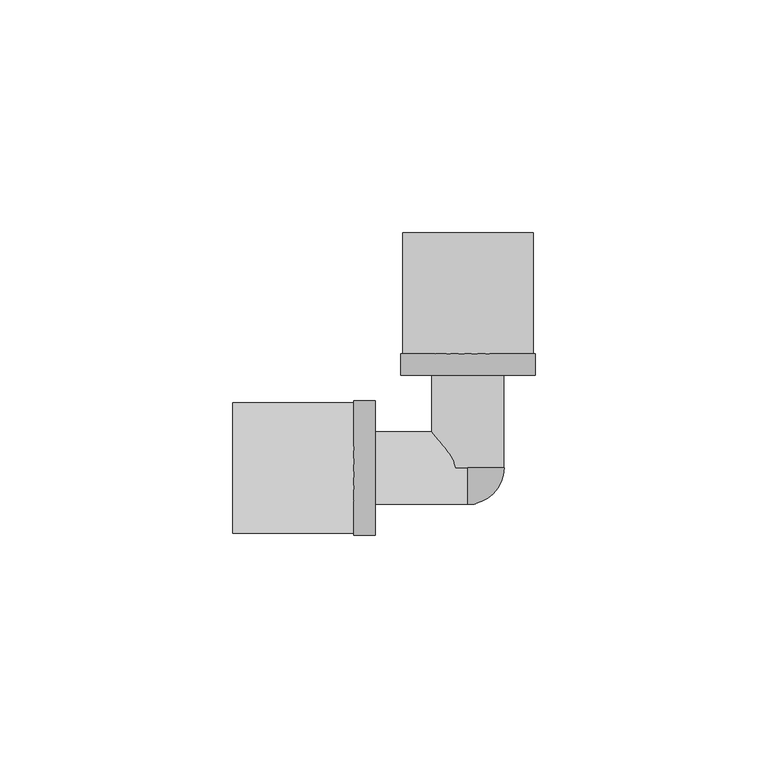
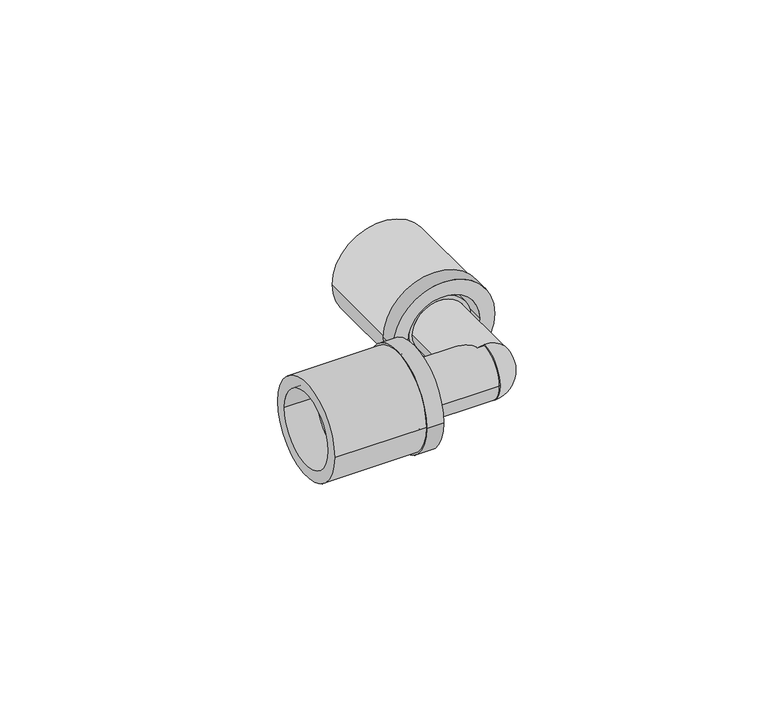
"""IFC4 building model written with IfcOpenShell, lengths in millimetres: pipe fitting geometry, FASTLOC_Corner EX+ : FSL C EX+ AT."""

from ifc_helpers import new_model, si_unit, point, frame, origin, origin_2d, place, context, project, spatial, polyline, circle_curve, ellipse_curve, trimmed, segment, composite_curve, outline, extrude, source, transform, mapped, element, save
from ifc_brep_helpers import plane_surface, cylinder_surface, revolved_surface, advanced_brep


def pipe_fitting_792dd94b(model_context):
    return source(origin(), model_context, "Body", "SolidModel", [
        extrude(outline(composite_curve([segment(trimmed(circle_curve(origin_2d(), 14.0), [point((0.0, 14.0))], [point((0.0, -14.0))], False, "CARTESIAN"), True, "CONTINUOUS"), segment(trimmed(circle_curve(origin_2d(), 14.0), [point((0.0, -14.0))], [point((0.0, 14.0))], False, "CARTESIAN"), True, "CONTINUOUS")], self_intersect=False), holes=[composite_curve([segment(trimmed(circle_curve(origin_2d(), 10.7), [point((0.0, 10.7))], [point((0.0, -10.7))], True, "CARTESIAN"), True, "CONTINUOUS"), segment(trimmed(circle_curve(origin_2d(), 10.7), [point((0.0, -10.7))], [point((0.0, 10.7))], True, "CARTESIAN"), True, "CONTINUOUS")], self_intersect=False)]), frame((0.0, 24.6, 0.0), z_axis=(0.0, 1.0, 0.0), x_axis=(0.0, 0.0, 1.0)), (0.0, 0.0, 1.0), 26.0),
        advanced_brep(
        [(-14.5, 24.6, 0.0), (14.5, 24.6, 0.0), (14.5, 19.9, 0.0), (-14.5, 19.9, 0.0), (-11.85, 41.6, 0.0), (11.85, 41.6, 0.0), (11.85, 24.6, 0.0), (-11.85, 24.6, 0.0), (-10.15, 19.9, 0.0), (10.15, 19.9, 0.0), (10.15, 41.6, 0.0), (-10.15, 41.6, 0.0)],
        [
            (0, 1, circle_curve(frame((0.0, 24.6, 0.0), z_axis=(0.0, -1.0, 0.0), x_axis=(1.0, 0.0, 0.0)), 14.5)),
            (1, 2),
            (2, 3, circle_curve(frame((0.0, 19.9, 0.0), z_axis=(0.0, 1.0, 0.0), x_axis=(1.0, 0.0, 0.0)), 14.5)),
            (3, 0),
            (4, 5, circle_curve(frame((0.0, 41.6, 0.0), z_axis=(0.0, -1.0, 0.0), x_axis=(1.0, 0.0, 0.0)), 11.85)),
            (5, 6),
            (6, 7, circle_curve(frame((0.0, 24.6, 0.0), z_axis=(0.0, 1.0, 0.0), x_axis=(1.0, 0.0, 0.0)), 11.85)),
            (7, 4),
            (8, 9, circle_curve(frame((0.0, 19.9, 0.0), z_axis=(0.0, -1.0, 0.0), x_axis=(1.0, 0.0, 0.0)), 10.15)),
            (9, 10),
            (10, 11, circle_curve(frame((0.0, 41.6, 0.0), z_axis=(0.0, 1.0, 0.0), x_axis=(1.0, 0.0, 0.0)), 10.15)),
            (11, 8),
            (1, 0, circle_curve(frame((0.0, 24.6, 0.0), z_axis=(0.0, -1.0, 0.0), x_axis=(-1.0, 0.0, 0.0)), 14.5)),
            (3, 2, circle_curve(frame((0.0, 19.9, 0.0), z_axis=(0.0, 1.0, 0.0), x_axis=(-1.0, 0.0, 0.0)), 14.5)),
            (6, 7, circle_curve(frame((0.0, 24.6, 0.0), z_axis=(0.0, -1.0, 0.0), x_axis=(-1.0, 0.0, 0.0)), 11.85)),
            (5, 4, circle_curve(frame((0.0, 41.6, 0.0), z_axis=(0.0, -1.0, 0.0), x_axis=(-1.0, 0.0, 0.0)), 11.85)),
            (10, 11, circle_curve(frame((0.0, 41.6, 0.0), z_axis=(0.0, -1.0, 0.0), x_axis=(-1.0, 0.0, 0.0)), 10.15)),
            (9, 8, circle_curve(frame((0.0, 19.9, 0.0), z_axis=(0.0, -1.0, 0.0), x_axis=(-1.0, 0.0, 0.0)), 10.15)),
        ],
        [
            cylinder_surface(frame((0.0, 19.9, 0.0), z_axis=(0.0, 1.0, 0.0), x_axis=(1.0, 0.0, 0.0)), 14.5),
            cylinder_surface(frame((0.0, 19.9, 0.0), z_axis=(0.0, 1.0, 0.0), x_axis=(1.0, 0.0, 0.0)), 11.85),
            revolved_surface(polyline([(10.15, 41.6, 0.0), (10.15, 19.9, 0.0)]), (0.0, 19.9, 0.0), (0.0, 1.0, 0.0)),
            cylinder_surface(frame((0.0, 19.9, 0.0), z_axis=(0.0, 1.0, 0.0), x_axis=(-1.0, 0.0, 0.0)), 14.5),
            plane_surface(frame((0.0, 24.6, 0.0), z_axis=(0.0, 1.0, 0.0), x_axis=(-1.0, 0.0, 0.0))),
            cylinder_surface(frame((0.0, 19.9, 0.0), z_axis=(0.0, 1.0, 0.0), x_axis=(-1.0, 0.0, 0.0)), 11.85),
            plane_surface(frame((0.0, 41.6, 0.0), z_axis=(0.0, 1.0, 0.0), x_axis=(-1.0, 0.0, 0.0))),
            revolved_surface(polyline([(-10.15, 41.6, 0.0), (-10.15, 19.9, 0.0)]), (0.0, 19.9, 0.0), (0.0, 1.0, 0.0)),
            plane_surface(frame((0.0, 19.9, 0.0), z_axis=(0.0, -1.0, 0.0), x_axis=(-1.0, 0.0, 0.0))),
        ],
        [
            (0, [[1, 2, 3, 4]]),
            (1, [[5, 6, 7, 8]]),
            (2, [[9, 10, 11, 12]]),
            (3, [[13, -4, 14, -2]]),
            (4, [[-13, -1], [15, -7]]),
            (5, [[16, -8, -15, -6]]),
            (6, [[-16, -5], [17, -11]]),
            (7, [[18, -12, -17, -10]]),
            (8, [[-14, -3], [-18, -9]]),
        ],
    ),
        extrude(outline(composite_curve([segment(trimmed(circle_curve(origin_2d(), 14.0), [point((14.0, 0.0))], [point((-14.0, 0.0))], False, "CARTESIAN"), True, "CONTINUOUS"), segment(trimmed(circle_curve(origin_2d(), 14.0), [point((-14.0, 0.0))], [point((14.0, 0.0))], False, "CARTESIAN"), True, "CONTINUOUS")], self_intersect=False), holes=[composite_curve([segment(trimmed(circle_curve(origin_2d(), 10.7), [point((10.7, 0.0))], [point((-10.7, 0.0))], True, "CARTESIAN"), True, "CONTINUOUS"), segment(trimmed(circle_curve(origin_2d(), 10.7), [point((-10.7, 0.0))], [point((10.7, 0.0))], True, "CARTESIAN"), True, "CONTINUOUS")], self_intersect=False)]), frame((-50.6, 0.0, 0.0), z_axis=(1.0, 0.0, 0.0), x_axis=(0.0, 1.0, 0.0)), (0.0, 0.0, 1.0), 26.0),
        advanced_brep(
        [(-24.6, -14.5, 0.0), (-24.6, 14.5, 0.0), (-19.9, 14.5, 0.0), (-19.9, -14.5, 0.0), (-41.6, -11.85, 0.0), (-41.6, 11.85, 0.0), (-24.6, 11.85, 0.0), (-24.6, -11.85, 0.0), (-19.9, -10.15, 0.0), (-19.9, 10.15, 0.0), (-41.6, 10.15, 0.0), (-41.6, -10.15, 0.0)],
        [
            (0, 1, circle_curve(frame((-24.6, 0.0, 0.0), z_axis=(1.0, 0.0, 0.0), x_axis=(0.0, 1.0, 0.0)), 14.5)),
            (1, 2),
            (2, 3, circle_curve(frame((-19.9, 0.0, 0.0), z_axis=(-1.0, 0.0, 0.0), x_axis=(0.0, 1.0, 0.0)), 14.5)),
            (3, 0),
            (4, 5, circle_curve(frame((-41.6, 0.0, 0.0), z_axis=(1.0, 0.0, 0.0), x_axis=(0.0, 1.0, 0.0)), 11.85)),
            (5, 6),
            (6, 7, circle_curve(frame((-24.6, 0.0, 0.0), z_axis=(-1.0, 0.0, 0.0), x_axis=(0.0, 1.0, 0.0)), 11.85)),
            (7, 4),
            (8, 9, circle_curve(frame((-19.9, 0.0, 0.0), z_axis=(1.0, 0.0, 0.0), x_axis=(0.0, 1.0, 0.0)), 10.15)),
            (9, 10),
            (10, 11, circle_curve(frame((-41.6, 0.0, 0.0), z_axis=(-1.0, 0.0, 0.0), x_axis=(0.0, 1.0, 0.0)), 10.15)),
            (11, 8),
            (1, 0, circle_curve(frame((-24.6, 0.0, 0.0), z_axis=(1.0, 0.0, 0.0), x_axis=(0.0, -1.0, 0.0)), 14.5)),
            (3, 2, circle_curve(frame((-19.9, 0.0, 0.0), z_axis=(-1.0, 0.0, 0.0), x_axis=(0.0, -1.0, 0.0)), 14.5)),
            (6, 7, circle_curve(frame((-24.6, 0.0, 0.0), z_axis=(1.0, 0.0, 0.0), x_axis=(0.0, -1.0, 0.0)), 11.85)),
            (5, 4, circle_curve(frame((-41.6, 0.0, 0.0), z_axis=(1.0, 0.0, 0.0), x_axis=(0.0, -1.0, 0.0)), 11.85)),
            (10, 11, circle_curve(frame((-41.6, 0.0, 0.0), z_axis=(1.0, 0.0, 0.0), x_axis=(0.0, -1.0, 0.0)), 10.15)),
            (9, 8, circle_curve(frame((-19.9, 0.0, 0.0), z_axis=(1.0, 0.0, 0.0), x_axis=(0.0, -1.0, 0.0)), 10.15)),
        ],
        [
            cylinder_surface(frame((-19.9, 0.0, 0.0), z_axis=(-1.0, 0.0, 0.0), x_axis=(0.0, 1.0, 0.0)), 14.5),
            cylinder_surface(frame((-19.9, 0.0, 0.0), z_axis=(-1.0, 0.0, 0.0), x_axis=(0.0, 1.0, 0.0)), 11.85),
            revolved_surface(polyline([(-41.6, 10.15, 0.0), (-19.9, 10.15, 0.0)]), (-19.9, 0.0, 0.0), (-1.0, 0.0, 0.0)),
            cylinder_surface(frame((-19.9, 0.0, 0.0), z_axis=(-1.0, 0.0, 0.0), x_axis=(0.0, -1.0, 0.0)), 14.5),
            plane_surface(frame((-24.6, 0.0, 0.0), z_axis=(-1.0, 0.0, 0.0), x_axis=(0.0, -1.0, 0.0))),
            cylinder_surface(frame((-19.9, 0.0, 0.0), z_axis=(-1.0, 0.0, 0.0), x_axis=(0.0, -1.0, 0.0)), 11.85),
            plane_surface(frame((-41.6, 0.0, 0.0), z_axis=(-1.0, 0.0, 0.0), x_axis=(0.0, -1.0, 0.0))),
            revolved_surface(polyline([(-41.6, -10.15, 0.0), (-19.9, -10.15, 0.0)]), (-19.9, 0.0, 0.0), (-1.0, 0.0, 0.0)),
            plane_surface(frame((-19.9, 0.0, 0.0), z_axis=(1.0, 0.0, 0.0), x_axis=(0.0, -1.0, 0.0))),
        ],
        [
            (0, [[1, 2, 3, 4]]),
            (1, [[5, 6, 7, 8]]),
            (2, [[9, 10, 11, 12]]),
            (3, [[13, -4, 14, -2]]),
            (4, [[-13, -1], [15, -7]]),
            (5, [[16, -8, -15, -6]]),
            (6, [[-16, -5], [17, -11]]),
            (7, [[18, -12, -17, -10]]),
            (8, [[-14, -3], [-18, -9]]),
        ],
    ),
        advanced_brep(
        [(0.0, 0.0, 7.8), (0.0, 0.0, 0.0), (0.0, -7.8, 0.0), (0.0, 0.0, -7.8)],
        [
            (0, 1),
            (1, 2),
            (2, 0, circle_curve(frame((0.0, 0.0, 0.0), z_axis=(-1.0, 0.0, 0.0), x_axis=(0.0, 0.0, 1.0)), 7.8)),
            (3, 2, circle_curve(frame((0.0, 0.0, 0.0), z_axis=(-1.0, 0.0, 0.0), x_axis=(0.0, 0.0, -1.0)), 7.8)),
            (1, 3),
            (0, 3, circle_curve(frame((0.0, 0.0, 0.0), z_axis=(0.0, 1.0, 0.0), x_axis=(0.0, 0.0, 1.0)), 7.8)),
        ],
        [
            plane_surface(frame((0.0, 0.0, 0.0), z_axis=(-1.0, 0.0, 0.0), x_axis=(0.0, 0.0, 1.0))),
            plane_surface(frame((0.0, 0.0, 0.0), z_axis=(-1.0, 0.0, 0.0), x_axis=(0.0, 0.0, -1.0))),
            plane_surface(frame((0.0, 0.0, 0.0), z_axis=(0.0, 1.0, 0.0), x_axis=(0.0, 0.0, 1.0))),
            revolved_surface(trimmed(ellipse_curve(frame((0.0, 0.0, 0.0), z_axis=(-1.0, 0.0, 0.0), x_axis=(0.0, 0.0, 1.0)), 7.8, 7.8), [point((0.0, -7.8, 0.0))], [point((0.0, 0.0, 7.8))], True, "CARTESIAN"), (0.0, 0.0, 0.0), (0.0, 1.0, 0.0)),
        ],
        [
            (0, [[1, 2, 3]]),
            (1, [[4, -2, 5]]),
            (2, [[-1, 6, -5]]),
            (3, [[-6, -3, -4]]),
        ],
    ),
        advanced_brep(
        [(5.75, 42.0, 0.0), (-5.75, 42.0, 0.0), (-5.75, 0.0, 0.0), (5.75, 0.0, 0.0), (7.75, 24.6, 0.0), (-7.75, 24.6, 0.0), (-7.75, 42.0, 0.0), (7.75, 42.0, 0.0), (8.8, 21.9, 0.0), (-8.8, 21.9, 0.0), (-8.8, 24.6, 0.0), (8.8, 24.6, 0.0), (7.75, 0.0, 0.0), (-7.75, 0.0, 0.0), (-7.75, 21.9, 0.0), (7.75, 21.9, 0.0)],
        [
            (0, 1, circle_curve(frame((0.0, 42.0, 0.0), z_axis=(0.0, 1.0, 0.0), x_axis=(-1.0, 0.0, 0.0)), 5.75)),
            (1, 2),
            (2, 3, circle_curve(frame((0.0, 0.0, 0.0), z_axis=(0.0, -1.0, 0.0), x_axis=(-1.0, 0.0, 0.0)), 5.75)),
            (3, 0),
            (4, 5, circle_curve(frame((0.0, 24.6, 0.0), z_axis=(0.0, 1.0, 0.0), x_axis=(-1.0, 0.0, 0.0)), 7.75)),
            (5, 6),
            (6, 7, circle_curve(frame((0.0, 42.0, 0.0), z_axis=(0.0, -1.0, 0.0), x_axis=(-1.0, 0.0, 0.0)), 7.75)),
            (7, 4),
            (8, 9, circle_curve(frame((0.0, 21.9, 0.0), z_axis=(0.0, 1.0, 0.0), x_axis=(-1.0, 0.0, 0.0)), 8.8)),
            (9, 10),
            (10, 11, circle_curve(frame((0.0, 24.6, 0.0), z_axis=(0.0, -1.0, 0.0), x_axis=(-1.0, 0.0, 0.0)), 8.8)),
            (11, 8),
            (12, 13, circle_curve(frame((0.0, 0.0, 0.0), z_axis=(0.0, 1.0, 0.0), x_axis=(-1.0, 0.0, 0.0)), 7.75)),
            (13, 14),
            (14, 15, circle_curve(frame((0.0, 21.9, 0.0), z_axis=(0.0, -1.0, 0.0), x_axis=(-1.0, 0.0, 0.0)), 7.75)),
            (15, 12),
            (1, 0, circle_curve(frame((0.0, 42.0, 0.0), z_axis=(0.0, 1.0, 0.0), x_axis=(1.0, 0.0, 0.0)), 5.75)),
            (3, 2, circle_curve(frame((0.0, 0.0, 0.0), z_axis=(0.0, -1.0, 0.0), x_axis=(1.0, 0.0, 0.0)), 5.75)),
            (6, 7, circle_curve(frame((0.0, 42.0, 0.0), z_axis=(0.0, 1.0, 0.0), x_axis=(1.0, 0.0, 0.0)), 7.75)),
            (5, 4, circle_curve(frame((0.0, 24.6, 0.0), z_axis=(0.0, 1.0, 0.0), x_axis=(1.0, 0.0, 0.0)), 7.75)),
            (10, 11, circle_curve(frame((0.0, 24.6, 0.0), z_axis=(0.0, 1.0, 0.0), x_axis=(1.0, 0.0, 0.0)), 8.8)),
            (9, 8, circle_curve(frame((0.0, 21.9, 0.0), z_axis=(0.0, 1.0, 0.0), x_axis=(1.0, 0.0, 0.0)), 8.8)),
            (14, 15, circle_curve(frame((0.0, 21.9, 0.0), z_axis=(0.0, 1.0, 0.0), x_axis=(1.0, 0.0, 0.0)), 7.75)),
            (13, 12, circle_curve(frame((0.0, 0.0, 0.0), z_axis=(0.0, 1.0, 0.0), x_axis=(1.0, 0.0, 0.0)), 7.75)),
        ],
        [
            revolved_surface(polyline([(-5.75, 0.0, 0.0), (-5.75, 42.0, 0.0)]), (0.0, 0.0, 0.0), (0.0, -1.0, 0.0)),
            cylinder_surface(frame((0.0, 0.0, 0.0), z_axis=(0.0, -1.0, 0.0), x_axis=(-1.0, 0.0, 0.0)), 7.75),
            cylinder_surface(frame((0.0, 0.0, 0.0), z_axis=(0.0, -1.0, 0.0), x_axis=(-1.0, 0.0, 0.0)), 8.8),
            revolved_surface(polyline([(5.75, 0.0, 0.0), (5.75, 42.0, 0.0)]), (0.0, 0.0, 0.0), (0.0, -1.0, 0.0)),
            plane_surface(frame((0.0, 42.0, 0.0), z_axis=(0.0, 1.0, 0.0), x_axis=(1.0, 0.0, 0.0))),
            cylinder_surface(frame((0.0, 0.0, 0.0), z_axis=(0.0, -1.0, 0.0), x_axis=(1.0, 0.0, 0.0)), 7.75),
            plane_surface(frame((0.0, 24.6, 0.0), z_axis=(0.0, 1.0, 0.0), x_axis=(1.0, 0.0, 0.0))),
            cylinder_surface(frame((0.0, 0.0, 0.0), z_axis=(0.0, -1.0, 0.0), x_axis=(1.0, 0.0, 0.0)), 8.8),
            plane_surface(frame((0.0, 21.9, 0.0), z_axis=(0.0, -1.0, 0.0), x_axis=(1.0, 0.0, 0.0))),
            plane_surface(frame((0.0, 0.0, 0.0), z_axis=(0.0, -1.0, 0.0), x_axis=(1.0, 0.0, 0.0))),
        ],
        [
            (0, [[1, 2, 3, 4]]),
            (1, [[5, 6, 7, 8]]),
            (2, [[9, 10, 11, 12]]),
            (1, [[13, 14, 15, 16]]),
            (3, [[17, -4, 18, -2]]),
            (4, [[19, -7], [-17, -1]]),
            (5, [[20, -8, -19, -6]]),
            (6, [[21, -11], [-20, -5]]),
            (7, [[22, -12, -21, -10]]),
            (8, [[-22, -9], [23, -15]]),
            (5, [[24, -16, -23, -14]]),
            (9, [[-24, -13], [-18, -3]]),
        ],
    ),
        advanced_brep(
        [(0.0, 7.75, 0.0), (0.0, -7.75, 0.0), (-21.9, -7.75, 0.0), (-21.9, 7.75, 0.0), (-21.9, 8.8, 0.0), (-21.9, -8.8, 0.0), (-24.6, -8.8, 0.0), (-24.6, 8.8, 0.0), (-24.6, 7.75, 0.0), (-24.6, -7.75, 0.0), (-42.0, -7.75, 0.0), (-42.0, 7.75, 0.0), (-42.0, 5.75, 0.0), (-42.0, -5.75, 0.0), (0.0, -5.75, 0.0), (0.0, 5.75, 0.0)],
        [
            (0, 1, circle_curve(frame((0.0, 0.0, 0.0), z_axis=(-1.0, 0.0, 0.0), x_axis=(0.0, -1.0, 0.0)), 7.75)),
            (1, 2),
            (2, 3, circle_curve(frame((-21.9, 0.0, 0.0), z_axis=(1.0, 0.0, 0.0), x_axis=(0.0, -1.0, 0.0)), 7.75)),
            (3, 0),
            (4, 5, circle_curve(frame((-21.9, 0.0, 0.0), z_axis=(-1.0, 0.0, 0.0), x_axis=(0.0, -1.0, 0.0)), 8.8)),
            (5, 6),
            (6, 7, circle_curve(frame((-24.6, 0.0, 0.0), z_axis=(1.0, 0.0, 0.0), x_axis=(0.0, -1.0, 0.0)), 8.8)),
            (7, 4),
            (8, 9, circle_curve(frame((-24.6, 0.0, 0.0), z_axis=(-1.0, 0.0, 0.0), x_axis=(0.0, -1.0, 0.0)), 7.75)),
            (9, 10),
            (10, 11, circle_curve(frame((-42.0, 0.0, 0.0), z_axis=(1.0, 0.0, 0.0), x_axis=(0.0, -1.0, 0.0)), 7.75)),
            (11, 8),
            (12, 13, circle_curve(frame((-42.0, 0.0, 0.0), z_axis=(-1.0, 0.0, 0.0), x_axis=(0.0, -1.0, 0.0)), 5.75)),
            (13, 14),
            (14, 15, circle_curve(frame((0.0, 0.0, 0.0), z_axis=(1.0, 0.0, 0.0), x_axis=(0.0, -1.0, 0.0)), 5.75)),
            (15, 12),
            (0, 1, circle_curve(frame((0.0, 0.0, 0.0), z_axis=(1.0, 0.0, 0.0), x_axis=(0.0, 1.0, 0.0)), 7.75)),
            (14, 15, circle_curve(frame((0.0, 0.0, 0.0), z_axis=(-1.0, 0.0, 0.0), x_axis=(0.0, 1.0, 0.0)), 5.75)),
            (3, 2, circle_curve(frame((-21.9, 0.0, 0.0), z_axis=(1.0, 0.0, 0.0), x_axis=(0.0, 1.0, 0.0)), 7.75)),
            (4, 5, circle_curve(frame((-21.9, 0.0, 0.0), z_axis=(1.0, 0.0, 0.0), x_axis=(0.0, 1.0, 0.0)), 8.8)),
            (7, 6, circle_curve(frame((-24.6, 0.0, 0.0), z_axis=(1.0, 0.0, 0.0), x_axis=(0.0, 1.0, 0.0)), 8.8)),
            (8, 9, circle_curve(frame((-24.6, 0.0, 0.0), z_axis=(1.0, 0.0, 0.0), x_axis=(0.0, 1.0, 0.0)), 7.75)),
            (11, 10, circle_curve(frame((-42.0, 0.0, 0.0), z_axis=(1.0, 0.0, 0.0), x_axis=(0.0, 1.0, 0.0)), 7.75)),
            (12, 13, circle_curve(frame((-42.0, 0.0, 0.0), z_axis=(1.0, 0.0, 0.0), x_axis=(0.0, 1.0, 0.0)), 5.75)),
        ],
        [
            cylinder_surface(frame((0.0, 0.0, 0.0), z_axis=(1.0, 0.0, 0.0), x_axis=(0.0, -1.0, 0.0)), 7.75),
            cylinder_surface(frame((0.0, 0.0, 0.0), z_axis=(1.0, 0.0, 0.0), x_axis=(0.0, -1.0, 0.0)), 8.8),
            revolved_surface(polyline([(0.0, -5.75, 0.0), (-42.0, -5.75, 0.0)]), (0.0, 0.0, 0.0), (1.0, 0.0, 0.0)),
            plane_surface(frame((0.0, 0.0, 0.0), z_axis=(1.0, 0.0, 0.0), x_axis=(0.0, 1.0, 0.0))),
            cylinder_surface(frame((0.0, 0.0, 0.0), z_axis=(1.0, 0.0, 0.0), x_axis=(0.0, 1.0, 0.0)), 7.75),
            plane_surface(frame((-21.9, 0.0, 0.0), z_axis=(1.0, 0.0, 0.0), x_axis=(0.0, 1.0, 0.0))),
            cylinder_surface(frame((0.0, 0.0, 0.0), z_axis=(1.0, 0.0, 0.0), x_axis=(0.0, 1.0, 0.0)), 8.8),
            plane_surface(frame((-24.6, 0.0, 0.0), z_axis=(-1.0, 0.0, 0.0), x_axis=(0.0, 1.0, 0.0))),
            plane_surface(frame((-42.0, 0.0, 0.0), z_axis=(-1.0, 0.0, 0.0), x_axis=(0.0, 1.0, 0.0))),
            revolved_surface(polyline([(0.0, 5.75, 0.0), (-42.0, 5.75, 0.0)]), (0.0, 0.0, 0.0), (1.0, 0.0, 0.0)),
        ],
        [
            (0, [[1, 2, 3, 4]]),
            (1, [[5, 6, 7, 8]]),
            (0, [[9, 10, 11, 12]]),
            (2, [[13, 14, 15, 16]]),
            (3, [[17, -1], [18, -15]]),
            (4, [[-17, -4, 19, -2]]),
            (5, [[20, -5], [-19, -3]]),
            (6, [[-20, -8, 21, -6]]),
            (7, [[-21, -7], [22, -9]]),
            (4, [[-22, -12, 23, -10]]),
            (8, [[-23, -11], [24, -13]]),
            (9, [[-24, -16, -18, -14]]),
        ],
    ),
    ])


if __name__ == "__main__":
    model = new_model("IFC4")
    model_context = context("Model", 3, world=origin())
    ifc_project = project(units=[si_unit("LENGTHUNIT", "METRE", prefix="MILLI")], contexts=[model_context])
    site = spatial("IfcSite", under=ifc_project)
    building = spatial("IfcBuilding", under=site)
    placement = place(None, origin())
    pipe_fitting_shape = pipe_fitting_792dd94b(model_context)
    element("IfcPipeFitting", 1, ObjectType="FASTLOC_Corner EX+ : FSL C EX+ AT", at=placement, inside=building, context=model_context, shape_type="MappedRepresentation", body=[
        mapped(pipe_fitting_shape, transform((0.0, 0.0, 0.0), x_axis=(1.0, 0.0, 0.0), y_axis=(0.0, 1.0, 0.0), z_axis=(0.0, 0.0, 1.0))),
    ])
    save(model, "model.ifc")
